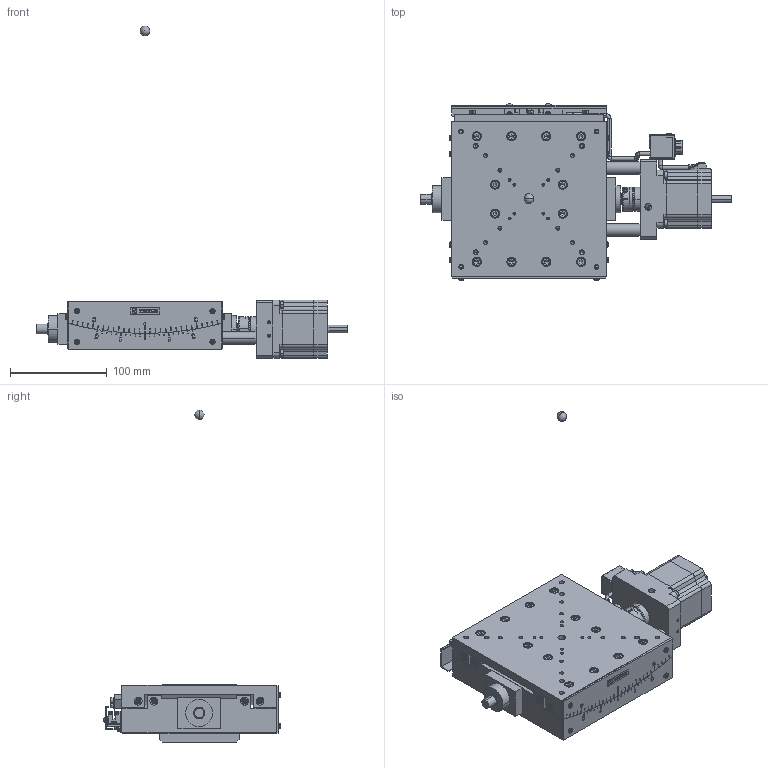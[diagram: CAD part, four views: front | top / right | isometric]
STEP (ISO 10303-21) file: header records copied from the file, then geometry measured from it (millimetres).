
FILE_DESCRIPTION (( 'STEP AP203' ), '1' );
FILE_NAME ('SA16A-RM01.STEP', '2019-02-20T06:41:02', ( '' ), ( '' ), 'SwSTEP 2.0', 'SolidWorks 2018', '' );
FILE_SCHEMA (( 'CONFIG_CONTROL_DESIGN' ));
Length unit declared in the file: millimetre
Products named in the file (4): table; SA16A-RM01; rotation center; base
Assembly tree (3 placements, depth 2):
  SA16A-RM01
    base
    table
    rotation center
Bounding box: 321.5 x 182.87 x 343.6 mm (x, y, z)
Volume: 1546367 mm3; surface area: 236569.8 mm2
Topology: 3 solids, 3 shells, 2878 faces, 7252 edges, 4503 vertices
Faces by surface type: plane 1737, cylinder 705, cone 328, torus 62, sphere 42, bspline 4
Entity records: 86829 total; most frequent: CARTESIAN_POINT 16306, DIRECTION 15075, ORIENTED_EDGE 14282, EDGE_CURVE 7141, AXIS2_PLACEMENT_3D 5219, LINE 4637, VECTOR 4637, VERTEX_POINT 4500
